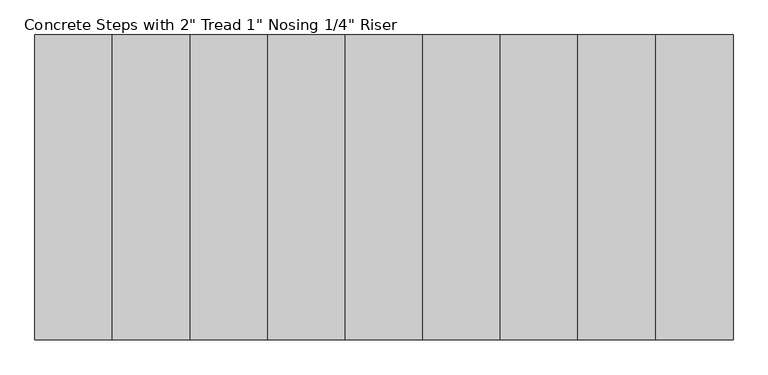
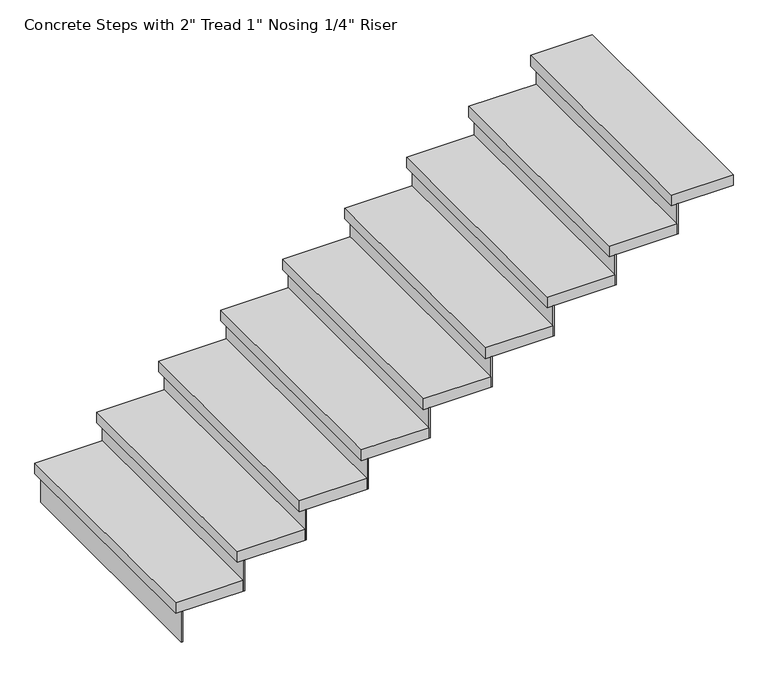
"""IFC4 building model written with IfcOpenShell, lengths in millimetres: stair flight geometry."""

from ifc_helpers import new_model, si_unit, frame, origin, place, context, project, spatial, polyline, outline, extrude, source, transform, mapped, element, save


def stair_flight_83536842(model_context):
    return source(origin(), model_context, "Body", "SweptSolid", [
        extrude(outline(polyline([(-14833.3313244, -18551.5554387), (-14839.6813244, -18551.5554387), (-14839.6813244, -17453.1578387), (-14833.3313244, -17453.1578387), (-14833.3313244, -18551.5554387)])), frame((0.0, 0.0, 1690.9142857), z_axis=(0.0, 0.0, 1.0), x_axis=(1.0, 0.0, 0.0)), (0.0, 0.0, 1.0), 145.1428571),
        extrude(outline(polyline([(-14560.2813244, -17453.1578387), (-14560.2813244, -18551.5554387), (-14865.0813244, -18551.5554387), (-14865.0813244, -17453.1578387), (-14560.2813244, -17453.1578387)])), frame((0.0, 0.0, 1836.0571429), z_axis=(0.0, 0.0, 1.0), x_axis=(1.0, 0.0, 0.0)), (0.0, 0.0, 1.0), 50.8),
        extrude(outline(polyline([(-14553.9313244, -18551.5554387), (-14560.2813244, -18551.5554387), (-14560.2813244, -17453.1578387), (-14553.9313244, -17453.1578387), (-14553.9313244, -18551.5554387)])), frame((0.0, 0.0, 1836.0571429), z_axis=(0.0, 0.0, 1.0), x_axis=(1.0, 0.0, 0.0)), (0.0, 0.0, 1.0), 145.1428571),
        extrude(outline(polyline([(-14280.8813244, -17453.1578387), (-14280.8813244, -18551.5554387), (-14585.6813244, -18551.5554387), (-14585.6813244, -17453.1578387), (-14280.8813244, -17453.1578387)])), frame((0.0, 0.0, 1981.2), z_axis=(0.0, 0.0, 1.0), x_axis=(1.0, 0.0, 0.0)), (0.0, 0.0, 1.0), 50.8),
        extrude(outline(polyline([(-14274.5313244, -18551.5554387), (-14280.8813244, -18551.5554387), (-14280.8813244, -17453.1578387), (-14274.5313244, -17453.1578387), (-14274.5313244, -18551.5554387)])), frame((0.0, 0.0, 1981.2), z_axis=(0.0, 0.0, 1.0), x_axis=(1.0, 0.0, 0.0)), (0.0, 0.0, 1.0), 145.1428571),
        extrude(outline(polyline([(-14001.4813244, -17453.1578387), (-14001.4813244, -18551.5554387), (-14306.2813244, -18551.5554387), (-14306.2813244, -17453.1578387), (-14001.4813244, -17453.1578387)])), frame((0.0, 0.0, 2126.3428571), z_axis=(0.0, 0.0, 1.0), x_axis=(1.0, 0.0, 0.0)), (0.0, 0.0, 1.0), 50.8),
        extrude(outline(polyline([(-13995.1313244, -18551.5554387), (-14001.4813244, -18551.5554387), (-14001.4813244, -17453.1578387), (-13995.1313244, -17453.1578387), (-13995.1313244, -18551.5554387)])), frame((0.0, 0.0, 2126.3428571), z_axis=(0.0, 0.0, 1.0), x_axis=(1.0, 0.0, 0.0)), (0.0, 0.0, 1.0), 145.1428571),
        extrude(outline(polyline([(-13722.0813244, -17453.1578387), (-13722.0813244, -18551.5554387), (-14026.8813244, -18551.5554387), (-14026.8813244, -17453.1578387), (-13722.0813244, -17453.1578387)])), frame((0.0, 0.0, 2271.4857143), z_axis=(0.0, 0.0, 1.0), x_axis=(1.0, 0.0, 0.0)), (0.0, 0.0, 1.0), 50.8),
        extrude(outline(polyline([(-13715.7313244, -18551.5554387), (-13722.0813244, -18551.5554387), (-13722.0813244, -17453.1578387), (-13715.7313244, -17453.1578387), (-13715.7313244, -18551.5554387)])), frame((0.0, 0.0, 2271.4857143), z_axis=(0.0, 0.0, 1.0), x_axis=(1.0, 0.0, 0.0)), (0.0, 0.0, 1.0), 145.1428571),
        extrude(outline(polyline([(-13442.6813244, -17453.1578387), (-13442.6813244, -18551.5554387), (-13747.4813244, -18551.5554387), (-13747.4813244, -17453.1578387), (-13442.6813244, -17453.1578387)])), frame((0.0, 0.0, 2416.6285714), z_axis=(0.0, 0.0, 1.0), x_axis=(1.0, 0.0, 0.0)), (0.0, 0.0, 1.0), 50.8),
        extrude(outline(polyline([(-13436.3313244, -18551.5554387), (-13442.6813244, -18551.5554387), (-13442.6813244, -17453.1578387), (-13436.3313244, -17453.1578387), (-13436.3313244, -18551.5554387)])), frame((0.0, 0.0, 2416.6285714), z_axis=(0.0, 0.0, 1.0), x_axis=(1.0, 0.0, 0.0)), (0.0, 0.0, 1.0), 145.1428571),
        extrude(outline(polyline([(-13163.2813244, -17453.1578387), (-13163.2813244, -18551.5554387), (-13468.0813244, -18551.5554387), (-13468.0813244, -17453.1578387), (-13163.2813244, -17453.1578387)])), frame((0.0, 0.0, 2561.7714286), z_axis=(0.0, 0.0, 1.0), x_axis=(1.0, 0.0, 0.0)), (0.0, 0.0, 1.0), 50.8),
        extrude(outline(polyline([(-13156.9313244, -18551.5554387), (-13163.2813244, -18551.5554387), (-13163.2813244, -17453.1578387), (-13156.9313244, -17453.1578387), (-13156.9313244, -18551.5554387)])), frame((0.0, 0.0, 2561.7714286), z_axis=(0.0, 0.0, 1.0), x_axis=(1.0, 0.0, 0.0)), (0.0, 0.0, 1.0), 145.1428571),
        extrude(outline(polyline([(-12883.8813244, -17453.1578387), (-12883.8813244, -18551.5554387), (-13188.6813244, -18551.5554387), (-13188.6813244, -17453.1578387), (-12883.8813244, -17453.1578387)])), frame((0.0, 0.0, 2706.9142857), z_axis=(0.0, 0.0, 1.0), x_axis=(1.0, 0.0, 0.0)), (0.0, 0.0, 1.0), 50.8),
        extrude(outline(polyline([(-12877.5313244, -18551.5554387), (-12883.8813244, -18551.5554387), (-12883.8813244, -17453.1578387), (-12877.5313244, -17453.1578387), (-12877.5313244, -18551.5554387)])), frame((0.0, 0.0, 2706.9142857), z_axis=(0.0, 0.0, 1.0), x_axis=(1.0, 0.0, 0.0)), (0.0, 0.0, 1.0), 145.1428571),
        extrude(outline(polyline([(-12604.4813244, -17453.1578387), (-12604.4813244, -18551.5554387), (-12909.2813244, -18551.5554387), (-12909.2813244, -17453.1578387), (-12604.4813244, -17453.1578387)])), frame((0.0, 0.0, 2852.0571429), z_axis=(0.0, 0.0, 1.0), x_axis=(1.0, 0.0, 0.0)), (0.0, 0.0, 1.0), 50.8),
        extrude(outline(polyline([(-12598.1313244, -18551.5554387), (-12604.4813244, -18551.5554387), (-12604.4813244, -17453.1578387), (-12598.1313244, -17453.1578387), (-12598.1313244, -18551.5554387)])), frame((0.0, 0.0, 2852.0571429), z_axis=(0.0, 0.0, 1.0), x_axis=(1.0, 0.0, 0.0)), (0.0, 0.0, 1.0), 145.1428571),
        extrude(outline(polyline([(-12350.4813244, -17453.1578387), (-12350.4813244, -18551.5554387), (-12629.8813244, -18551.5554387), (-12629.8813244, -17453.1578387), (-12350.4813244, -17453.1578387)])), frame((0.0, 0.0, 2997.2), z_axis=(0.0, 0.0, 1.0), x_axis=(1.0, 0.0, 0.0)), (0.0, 0.0, 1.0), 50.8),
    ])


if __name__ == "__main__":
    model = new_model("IFC4")
    model_context = context("Model", 3, world=origin())
    ifc_project = project(units=[si_unit("LENGTHUNIT", "METRE", prefix="MILLI")], contexts=[model_context])
    site = spatial("IfcSite", under=ifc_project)
    building = spatial("IfcBuilding", under=site)
    placement = place(None, origin())
    stair_flight_shape = stair_flight_83536842(model_context)
    element("IfcStairFlight", 1, ObjectType="Concrete Steps with 2\" Tread 1\" Nosing 1/4\" Riser", at=placement, inside=building, context=model_context, shape_type="MappedRepresentation", body=[
        mapped(stair_flight_shape, transform((0.0, 0.0, 0.0), x_axis=(1.0, 0.0, 0.0), y_axis=(0.0, 1.0, 0.0), z_axis=(0.0, 0.0, 1.0))),
    ])
    save(model, "model.ifc")
